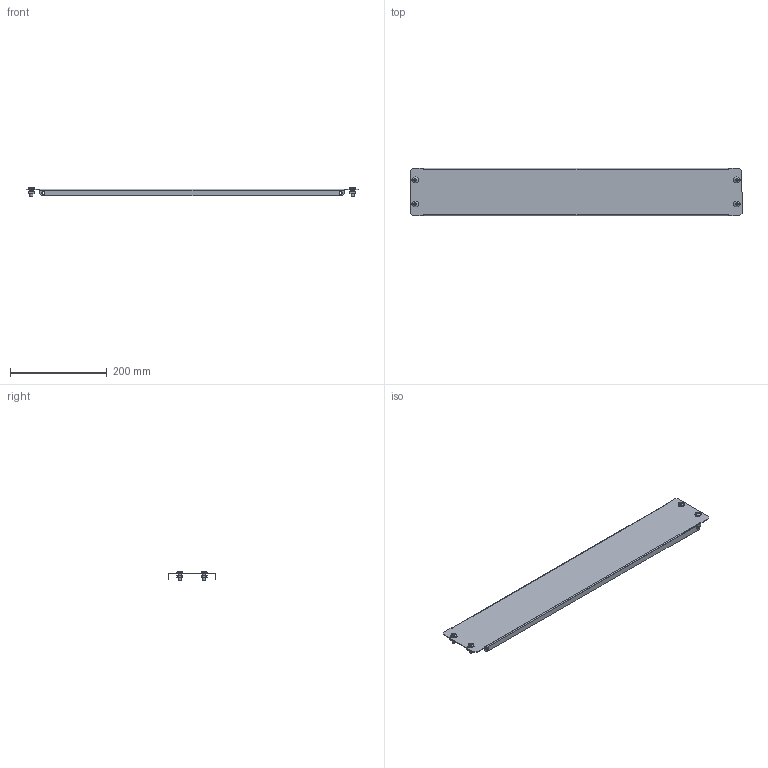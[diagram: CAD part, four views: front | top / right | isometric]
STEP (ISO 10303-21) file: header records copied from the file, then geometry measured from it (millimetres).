
FILE_DESCRIPTION (( 'STEP AP203' ), '1' );
FILE_NAME ('MA1.400.060000.01.00 Ïëàñòðîí Â100 Ø800 EKF AleSta-FP10M800.STEP', '2024-12-02T12:47:57', ( '' ), ( '' ), 'SwSTEP 2.0', 'SolidWorks 2021', '' );
FILE_SCHEMA (( 'CONFIG_CONTROL_DESIGN' ));
Length unit declared in the file: millimetre
Products named in the file (6): Ãàéêà çàêëàäíàÿ; MA1.400.060000.01.00 Ïëàñòðîí Â100 Ø800 EKF AleSta-FP10M800; MA1.400.060000.01.01 Ïëàñòðîí Â50 Ø600 EKF AleSta_Copy of ˜=800; Îáîëî÷êà ãàéêè çàêëàäíîé; pan head cross recess screw_din_DIN EN ISO 7045 - M6 x 16 - Z - 16N; Ãàéêà çàêëàäêàÿ Ì6
Assembly tree (11 placements, depth 3):
  MA1.400.060000.01.00 Ïëàñòðîí Â100 Ø800 EKF AleSta-FP10M800
    MA1.400.060000.01.01 Ïëàñòðîí Â50 Ø600 EKF AleSta_Copy of ˜=800
    Ãàéêà çàêëàäíàÿ  x4
      Îáîëî÷êà ãàéêè çàêëàäíîé
      Ãàéêà çàêëàäêàÿ Ì6
    pan head cross recess screw_din_DIN EN ISO 7045 - M6 x 16 - Z - 16N  x4
Bounding box: 686 x 99 x 20.48 mm (x, y, z)
Volume: 88212.2 mm3; surface area: 175061.4 mm2
Topology: 13 solids, 13 shells, 690 faces, 1534 edges, 874 vertices
Faces by surface type: plane 442, cylinder 144, bspline 64, cone 28, torus 8, sphere 4
Full cylindrical faces by diameter (mm): 6 x8, 6.5 x4, 7 x4, 12 x4
Entity records: 7404 total; most frequent: CARTESIAN_POINT 1669, DIRECTION 1010, ORIENTED_EDGE 1000, EDGE_CURVE 500, LINE 352, VECTOR 352, AXIS2_PLACEMENT_3D 329, VERTEX_POINT 300
